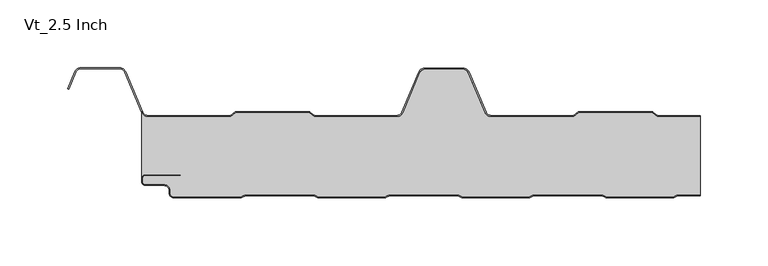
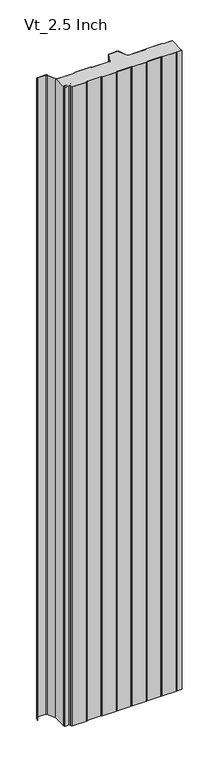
"""IFC4 building model written with IfcOpenShell, lengths in millimetres: plate geometry, AWIP_R18_CP_HR5_Vt_Roof Panel : Vt_2.5 Inch."""

from ifc_helpers import new_model, si_unit, point, frame_2d, origin, origin_with_axes, place, context, project, spatial, polyline, circle_curve, trimmed, segment, composite_curve, outline, extrude, source, transform, mapped, element, save


def vt_2_5_inch_2b169fff(model_context):
    return source(origin(), model_context, "Body", "SweptSolid", [
        extrude(outline(composite_curve([segment(trimmed(circle_curve(frame_2d((46.1009743, 90.6851335)), 4.2), [point((46.1009743, 94.8851335))], [point((49.967106, 92.3261778))], False, "CARTESIAN"), True, "CONTINUOUS"), segment(polyline([(49.967106, 92.3261778), (62.4828367, 62.8404017)]), True, "CONTINUOUS"), segment(trimmed(circle_curve(frame_2d((66.901273, 64.7158809)), 4.8000002), [point((62.4828367, 62.8404017))], [point((66.901273, 59.9158807))], True, "CARTESIAN"), True, "CONTINUOUS"), segment(polyline([(66.901273, 59.9158807), (127.7500279, 59.9158807)]), True, "CONTINUOUS"), segment(trimmed(circle_curve(frame_2d((127.7500279, 61.2158807)), 1.3), [point((127.7500279, 59.9158807))], [point((128.5114178, 60.1621798))], True, "CARTESIAN"), True, "CONTINUOUS"), segment(polyline([(128.5114178, 60.1621798), (132.0235518, 62.7), (186.226433, 62.7), (189.7385671, 60.1621799)]), True, "CONTINUOUS"), segment(trimmed(circle_curve(frame_2d((190.4999573, 61.2158814)), 1.3000007), [point((189.7385671, 60.1621799))], [point((190.4999573, 59.9158807))], True, "CARTESIAN"), True, "CONTINUOUS"), segment(polyline([(190.4999573, 59.9158807), (221.9999998, 59.9158807), (221.9999998, 2.3), (206.291051, 2.3)]), True, "CONTINUOUS"), segment(trimmed(circle_curve(frame_2d((206.291051, -1.0)), 3.3), [point((206.291051, 2.3))], [point((204.9822967, 2.0293831))], True, "CARTESIAN"), True, "CONTINUOUS"), segment(polyline([(204.9822967, 2.0293831), (202.5921975, 0.9968123)]), True, "CONTINUOUS"), segment(trimmed(circle_curve(frame_2d((201.6403761, 3.2)), 2.4), [point((202.5921975, 0.9968123))], [point((201.6403761, 0.8))], False, "CARTESIAN"), True, "CONTINUOUS"), segment(polyline([(201.6403761, 0.8), (152.725731, 0.8)]), True, "CONTINUOUS"), segment(trimmed(circle_curve(frame_2d((152.725731, 3.2)), 2.4), [point((152.725731, 0.8))], [point((151.7739097, 0.9968123))], False, "CARTESIAN"), True, "CONTINUOUS"), segment(polyline([(151.7739097, 0.9968123), (149.3838105, 2.0293831)]), True, "CONTINUOUS"), segment(trimmed(circle_curve(frame_2d((148.0750562, -1.0)), 3.3), [point((149.3838105, 2.0293831))], [point((148.0750562, 2.3))], True, "CARTESIAN"), True, "CONTINUOUS"), segment(polyline([(148.0750562, 2.3), (99.691051, 2.3)]), True, "CONTINUOUS"), segment(trimmed(circle_curve(frame_2d((99.691051, -1.0)), 3.3), [point((99.691051, 2.3))], [point((98.3822967, 2.0293831))], True, "CARTESIAN"), True, "CONTINUOUS"), segment(polyline([(98.3822967, 2.0293831), (95.9921975, 0.9968123)]), True, "CONTINUOUS"), segment(trimmed(circle_curve(frame_2d((95.0403761, 3.2)), 2.4), [point((95.9921975, 0.9968123))], [point((95.0403761, 0.8))], False, "CARTESIAN"), True, "CONTINUOUS"), segment(polyline([(95.0403761, 0.8), (46.125731, 0.8)]), True, "CONTINUOUS"), segment(trimmed(circle_curve(frame_2d((46.125731, 3.2)), 2.4), [point((46.125731, 0.8))], [point((45.1739097, 0.9968123))], False, "CARTESIAN"), True, "CONTINUOUS"), segment(polyline([(45.1739097, 0.9968123), (42.7838105, 2.0293831)]), True, "CONTINUOUS"), segment(trimmed(circle_curve(frame_2d((41.4750562, -1.0)), 3.3), [point((42.7838105, 2.0293831))], [point((41.4750562, 2.3))], True, "CARTESIAN"), True, "CONTINUOUS"), segment(polyline([(41.4750562, 2.3), (-6.908949, 2.3)]), True, "CONTINUOUS"), segment(trimmed(circle_curve(frame_2d((-6.908949, -1.0)), 3.3), [point((-6.908949, 2.3))], [point((-8.2177033, 2.0293831))], True, "CARTESIAN"), True, "CONTINUOUS"), segment(polyline([(-8.2177033, 2.0293831), (-10.6078025, 0.9968123)]), True, "CONTINUOUS"), segment(trimmed(circle_curve(frame_2d((-11.5596239, 3.2)), 2.4), [point((-10.6078025, 0.9968123))], [point((-11.5596239, 0.8))], False, "CARTESIAN"), True, "CONTINUOUS"), segment(polyline([(-11.5596239, 0.8), (-60.474269, 0.8)]), True, "CONTINUOUS"), segment(trimmed(circle_curve(frame_2d((-60.474269, 3.2)), 2.4), [point((-60.474269, 0.8))], [point((-61.4260903, 0.9968123))], False, "CARTESIAN"), True, "CONTINUOUS"), segment(polyline([(-61.4260903, 0.9968123), (-63.8161895, 2.0293831)]), True, "CONTINUOUS"), segment(trimmed(circle_curve(frame_2d((-65.1249438, -1.0)), 3.3), [point((-63.8161895, 2.0293831))], [point((-65.1249438, 2.3))], True, "CARTESIAN"), True, "CONTINUOUS"), segment(polyline([(-65.1249438, 2.3), (-113.508949, 2.3)]), True, "CONTINUOUS"), segment(trimmed(circle_curve(frame_2d((-113.508949, -1.0)), 3.3), [point((-113.508949, 2.3))], [point((-114.8177033, 2.0293831))], True, "CARTESIAN"), True, "CONTINUOUS"), segment(polyline([(-114.8177033, 2.0293831), (-117.2078025, 0.9968123)]), True, "CONTINUOUS"), segment(trimmed(circle_curve(frame_2d((-118.1596239, 3.2)), 2.4), [point((-117.2078025, 0.9968123))], [point((-118.1596239, 0.8))], False, "CARTESIAN"), True, "CONTINUOUS"), segment(polyline([(-118.1596239, 0.8), (-167.9169464, 0.8)]), True, "CONTINUOUS"), segment(trimmed(circle_curve(frame_2d((-167.9169464, 3.0)), 2.2), [point((-167.9169464, 0.8))], [point((-170.1169464, 3.0))], False, "CARTESIAN"), True, "CONTINUOUS"), segment(polyline([(-170.1169464, 3.0), (-170.1169464, 5.0)]), True, "CONTINUOUS"), segment(trimmed(circle_curve(frame_2d((-174.9169464, 5.0)), 4.8), [point((-170.1169464, 5.0))], [point((-174.9169464, 9.8))], True, "CARTESIAN"), True, "CONTINUOUS"), segment(polyline([(-174.9169464, 9.8), (-188.4327566, 9.8)]), True, "CONTINUOUS"), segment(trimmed(circle_curve(frame_2d((-188.4327566, 12.0)), 2.2), [point((-188.4327566, 9.8))], [point((-190.6327566, 12.0))], False, "CARTESIAN"), True, "CONTINUOUS"), segment(polyline([(-190.6327566, 12.0), (-190.6327566, 14.0)]), True, "CONTINUOUS"), segment(trimmed(circle_curve(frame_2d((-188.4327566, 14.0)), 2.2), [point((-190.6327566, 14.0))], [point((-188.4327566, 16.2))], False, "CARTESIAN"), True, "CONTINUOUS"), segment(polyline([(-188.4327566, 16.2), (-162.4917146, 16.2), (-162.4917146, 17.0), (-188.4327566, 17.0)]), True, "CONTINUOUS"), segment(trimmed(circle_curve(frame_2d((-188.4327566, 14.0)), 3.0), [point((-188.4327566, 17.0))], [point((-191.4327566, 14.0))], True, "CARTESIAN"), True, "CONTINUOUS"), segment(polyline([(-191.4327566, 14.0), (-191.4327566, 63.520955)]), True, "CONTINUOUS"), segment(trimmed(circle_curve(frame_2d((-186.7838692, 64.7158805)), 4.8), [point((-191.4327566, 63.520955))], [point((-186.7838692, 59.9158805))], True, "CARTESIAN"), True, "CONTINUOUS"), segment(polyline([(-186.7838692, 59.9158805), (-125.9999524, 59.9158805)]), True, "CONTINUOUS"), segment(trimmed(circle_curve(frame_2d((-125.9999524, 61.2158805)), 1.3), [point((-125.9999524, 59.9158805))], [point((-125.2385625, 60.1621796))], True, "CARTESIAN"), True, "CONTINUOUS"), segment(polyline([(-125.2385625, 60.1621796), (-121.7264279, 62.7), (-67.5235476, 62.7), (-64.0114131, 60.1621797)]), True, "CONTINUOUS"), segment(trimmed(circle_curve(frame_2d((-63.2500233, 61.2158805)), 1.3), [point((-64.0114131, 60.1621797))], [point((-63.2500233, 59.9158805))], True, "CARTESIAN"), True, "CONTINUOUS"), segment(polyline([(-63.2500233, 59.9158805), (-2.4012727, 59.9158805)]), True, "CONTINUOUS"), segment(trimmed(circle_curve(frame_2d((-2.4012727, 64.7158806)), 4.8000001), [point((-2.4012727, 59.9158805))], [point((2.0171635, 62.8404015))], True, "CARTESIAN"), True, "CONTINUOUS"), segment(polyline([(2.0171635, 62.8404015), (14.5328944, 92.3261778)]), True, "CONTINUOUS"), segment(trimmed(circle_curve(frame_2d((18.399026, 90.6851335)), 4.2), [point((14.5328944, 92.3261778))], [point((18.399026, 94.8851335))], False, "CARTESIAN"), True, "CONTINUOUS"), segment(polyline([(18.399026, 94.8851335), (46.1009743, 94.8851335)]), True, "CONTINUOUS")], self_intersect=False)), origin_with_axes(), (0.0, 0.0, 1.0), 2400.0),
        extrude(outline(composite_curve([segment(trimmed(circle_curve(frame_2d((206.3079976, -1.0)), 2.5), [point((206.3079976, 1.5))], [point((205.316517, 1.2949872))], True, "CARTESIAN"), True, "CONTINUOUS"), segment(polyline([(205.316517, 1.2949872), (202.9264178, 0.2624164)]), True, "CONTINUOUS"), segment(trimmed(circle_curve(frame_2d((201.6573227, 3.2)), 3.2), [point((202.9264178, 0.2624164))], [point((201.6573227, 0.0))], False, "CARTESIAN"), True, "CONTINUOUS"), segment(polyline([(201.6573227, 0.0), (152.7426776, 0.0)]), True, "CONTINUOUS"), segment(trimmed(circle_curve(frame_2d((152.7426776, 3.2)), 3.2), [point((152.7426776, 0.0))], [point((151.4735825, 0.2624164))], False, "CARTESIAN"), True, "CONTINUOUS"), segment(polyline([(151.4735825, 0.2624164), (149.0834833, 1.2949872)]), True, "CONTINUOUS"), segment(trimmed(circle_curve(frame_2d((148.0920027, -1.0)), 2.5), [point((149.0834833, 1.2949872))], [point((148.0920027, 1.5))], True, "CARTESIAN"), True, "CONTINUOUS"), segment(polyline([(148.0920027, 1.5), (99.7079976, 1.5)]), True, "CONTINUOUS"), segment(trimmed(circle_curve(frame_2d((99.7079976, -1.0)), 2.5), [point((99.7079976, 1.5))], [point((98.716517, 1.2949872))], True, "CARTESIAN"), True, "CONTINUOUS"), segment(polyline([(98.716517, 1.2949872), (96.3264178, 0.2624164)]), True, "CONTINUOUS"), segment(trimmed(circle_curve(frame_2d((95.0573227, 3.2)), 3.2), [point((96.3264178, 0.2624164))], [point((95.0573227, 0.0))], False, "CARTESIAN"), True, "CONTINUOUS"), segment(polyline([(95.0573227, 0.0), (46.1426776, 0.0)]), True, "CONTINUOUS"), segment(trimmed(circle_curve(frame_2d((46.1426776, 3.2)), 3.2), [point((46.1426776, 0.0))], [point((44.8735825, 0.2624164))], False, "CARTESIAN"), True, "CONTINUOUS"), segment(polyline([(44.8735825, 0.2624164), (42.4834833, 1.2949872)]), True, "CONTINUOUS"), segment(trimmed(circle_curve(frame_2d((41.4920027, -1.0)), 2.5), [point((42.4834833, 1.2949872))], [point((41.4920027, 1.5))], True, "CARTESIAN"), True, "CONTINUOUS"), segment(polyline([(41.4920027, 1.5), (-6.8920024, 1.5)]), True, "CONTINUOUS"), segment(trimmed(circle_curve(frame_2d((-6.8920024, -1.0)), 2.5), [point((-6.8920024, 1.5))], [point((-7.883483, 1.2949872))], True, "CARTESIAN"), True, "CONTINUOUS"), segment(polyline([(-7.883483, 1.2949872), (-10.2735822, 0.2624164)]), True, "CONTINUOUS"), segment(trimmed(circle_curve(frame_2d((-11.5426773, 3.2)), 3.2), [point((-10.2735822, 0.2624164))], [point((-11.5426773, 0.0))], False, "CARTESIAN"), True, "CONTINUOUS"), segment(polyline([(-11.5426773, 0.0), (-60.4573224, 0.0)]), True, "CONTINUOUS"), segment(trimmed(circle_curve(frame_2d((-60.4573224, 3.2)), 3.2), [point((-60.4573224, 0.0))], [point((-61.7264175, 0.2624164))], False, "CARTESIAN"), True, "CONTINUOUS"), segment(polyline([(-61.7264175, 0.2624164), (-64.1165167, 1.2949872)]), True, "CONTINUOUS"), segment(trimmed(circle_curve(frame_2d((-65.1079973, -1.0)), 2.5), [point((-64.1165167, 1.2949872))], [point((-65.1079973, 1.5))], True, "CARTESIAN"), True, "CONTINUOUS"), segment(polyline([(-65.1079973, 1.5), (-113.4920024, 1.5)]), True, "CONTINUOUS"), segment(trimmed(circle_curve(frame_2d((-113.4920024, -1.0)), 2.5), [point((-113.4920024, 1.5))], [point((-114.483483, 1.2949872))], True, "CARTESIAN"), True, "CONTINUOUS"), segment(polyline([(-114.483483, 1.2949872), (-116.8735822, 0.2624164)]), True, "CONTINUOUS"), segment(trimmed(circle_curve(frame_2d((-118.1426773, 3.2)), 3.2), [point((-116.8735822, 0.2624164))], [point((-118.1426773, 0.0))], False, "CARTESIAN"), True, "CONTINUOUS"), segment(polyline([(-118.1426773, 0.0), (-167.8999998, 0.0)]), True, "CONTINUOUS"), segment(trimmed(circle_curve(frame_2d((-167.8999998, 3.0)), 3.0), [point((-167.8999998, 0.0))], [point((-170.8999998, 3.0))], False, "CARTESIAN"), True, "CONTINUOUS"), segment(polyline([(-170.8999998, 3.0), (-170.8999998, 5.0)]), True, "CONTINUOUS"), segment(trimmed(circle_curve(frame_2d((-174.8999998, 5.0)), 4.0), [point((-170.8999998, 5.0))], [point((-174.8999998, 9.0))], True, "CARTESIAN"), True, "CONTINUOUS"), segment(polyline([(-174.8999998, 9.0), (-188.41581, 9.0)]), True, "CONTINUOUS"), segment(trimmed(circle_curve(frame_2d((-188.41581, 12.0)), 3.0), [point((-188.41581, 9.0))], [point((-191.41581, 12.0))], False, "CARTESIAN"), True, "CONTINUOUS"), segment(polyline([(-191.41581, 12.0), (-191.41581, 14.0)]), True, "CONTINUOUS"), segment(trimmed(circle_curve(frame_2d((-188.41581, 14.0)), 3.0), [point((-191.41581, 14.0))], [point((-188.41581, 17.0))], False, "CARTESIAN"), True, "CONTINUOUS"), segment(polyline([(-188.41581, 17.0), (-162.474768, 17.0), (-162.474768, 16.2), (-188.41581, 16.2)]), True, "CONTINUOUS"), segment(trimmed(circle_curve(frame_2d((-188.41581, 14.0)), 2.2), [point((-188.41581, 16.2))], [point((-190.61581, 14.0))], True, "CARTESIAN"), True, "CONTINUOUS"), segment(polyline([(-190.61581, 14.0), (-190.61581, 12.0)]), True, "CONTINUOUS"), segment(trimmed(circle_curve(frame_2d((-188.41581, 12.0)), 2.2), [point((-190.61581, 12.0))], [point((-188.41581, 9.8))], True, "CARTESIAN"), True, "CONTINUOUS"), segment(polyline([(-188.41581, 9.8), (-174.8999998, 9.8)]), True, "CONTINUOUS"), segment(trimmed(circle_curve(frame_2d((-174.8999998, 5.0)), 4.8), [point((-174.8999998, 9.8))], [point((-170.0999998, 5.0))], False, "CARTESIAN"), True, "CONTINUOUS"), segment(polyline([(-170.0999998, 5.0), (-170.0999998, 3.0)]), True, "CONTINUOUS"), segment(trimmed(circle_curve(frame_2d((-167.8999998, 3.0)), 2.2), [point((-170.0999998, 3.0))], [point((-167.8999998, 0.8))], True, "CARTESIAN"), True, "CONTINUOUS"), segment(polyline([(-167.8999998, 0.8), (-118.1426773, 0.8)]), True, "CONTINUOUS"), segment(trimmed(circle_curve(frame_2d((-118.1426773, 3.2)), 2.4), [point((-118.1426773, 0.8))], [point((-117.190856, 0.9968123))], True, "CARTESIAN"), True, "CONTINUOUS"), segment(polyline([(-117.190856, 0.9968123), (-114.8007568, 2.0293831)]), True, "CONTINUOUS"), segment(trimmed(circle_curve(frame_2d((-113.4920024, -1.0)), 3.3), [point((-114.8007568, 2.0293831))], [point((-113.4920024, 2.3))], False, "CARTESIAN"), True, "CONTINUOUS"), segment(polyline([(-113.4920024, 2.3), (-65.1079973, 2.3)]), True, "CONTINUOUS"), segment(trimmed(circle_curve(frame_2d((-65.1079973, -1.0)), 3.3), [point((-65.1079973, 2.3))], [point((-63.7992429, 2.0293831))], False, "CARTESIAN"), True, "CONTINUOUS"), segment(polyline([(-63.7992429, 2.0293831), (-61.4091437, 0.9968123)]), True, "CONTINUOUS"), segment(trimmed(circle_curve(frame_2d((-60.4573224, 3.2)), 2.4), [point((-61.4091437, 0.9968123))], [point((-60.4573224, 0.8))], True, "CARTESIAN"), True, "CONTINUOUS"), segment(polyline([(-60.4573224, 0.8), (-11.5426773, 0.8)]), True, "CONTINUOUS"), segment(trimmed(circle_curve(frame_2d((-11.5426773, 3.2)), 2.4), [point((-11.5426773, 0.8))], [point((-10.590856, 0.9968123))], True, "CARTESIAN"), True, "CONTINUOUS"), segment(polyline([(-10.590856, 0.9968123), (-8.2007568, 2.0293831)]), True, "CONTINUOUS"), segment(trimmed(circle_curve(frame_2d((-6.8920024, -1.0)), 3.3), [point((-8.2007568, 2.0293831))], [point((-6.8920024, 2.3))], False, "CARTESIAN"), True, "CONTINUOUS"), segment(polyline([(-6.8920024, 2.3), (41.4920027, 2.3)]), True, "CONTINUOUS"), segment(trimmed(circle_curve(frame_2d((41.4920027, -1.0)), 3.3), [point((41.4920027, 2.3))], [point((42.8007571, 2.0293831))], False, "CARTESIAN"), True, "CONTINUOUS"), segment(polyline([(42.8007571, 2.0293831), (45.1908563, 0.9968123)]), True, "CONTINUOUS"), segment(trimmed(circle_curve(frame_2d((46.1426776, 3.2)), 2.4), [point((45.1908563, 0.9968123))], [point((46.1426776, 0.8))], True, "CARTESIAN"), True, "CONTINUOUS"), segment(polyline([(46.1426776, 0.8), (95.0573227, 0.8)]), True, "CONTINUOUS"), segment(trimmed(circle_curve(frame_2d((95.0573227, 3.2)), 2.4), [point((95.0573227, 0.8))], [point((96.009144, 0.9968123))], True, "CARTESIAN"), True, "CONTINUOUS"), segment(polyline([(96.009144, 0.9968123), (98.3992432, 2.0293831)]), True, "CONTINUOUS"), segment(trimmed(circle_curve(frame_2d((99.7079976, -1.0)), 3.3), [point((98.3992432, 2.0293831))], [point((99.7079976, 2.3))], False, "CARTESIAN"), True, "CONTINUOUS"), segment(polyline([(99.7079976, 2.3), (148.0920027, 2.3)]), True, "CONTINUOUS"), segment(trimmed(circle_curve(frame_2d((148.0920027, -1.0)), 3.3), [point((148.0920027, 2.3))], [point((149.4007571, 2.0293831))], False, "CARTESIAN"), True, "CONTINUOUS"), segment(polyline([(149.4007571, 2.0293831), (151.7908563, 0.9968123)]), True, "CONTINUOUS"), segment(trimmed(circle_curve(frame_2d((152.7426776, 3.2)), 2.4), [point((151.7908563, 0.9968123))], [point((152.7426776, 0.8))], True, "CARTESIAN"), True, "CONTINUOUS"), segment(polyline([(152.7426776, 0.8), (201.6573227, 0.8)]), True, "CONTINUOUS"), segment(trimmed(circle_curve(frame_2d((201.6573227, 3.2)), 2.4), [point((201.6573227, 0.8))], [point((202.609144, 0.9968123))], True, "CARTESIAN"), True, "CONTINUOUS"), segment(polyline([(202.609144, 0.9968123), (204.9992432, 2.0293831)]), True, "CONTINUOUS"), segment(trimmed(circle_curve(frame_2d((206.3079976, -1.0)), 3.3), [point((204.9992432, 2.0293831))], [point((206.3079976, 2.3))], False, "CARTESIAN"), True, "CONTINUOUS"), segment(polyline([(206.3079976, 2.3), (221.9999998, 2.3), (221.9999998, 1.5), (206.3079976, 1.5)]), True, "CONTINUOUS")], self_intersect=False)), origin_with_axes(), (0.0, 0.0, 1.0), 2400.0),
        extrude(outline(composite_curve([segment(trimmed(circle_curve(frame_2d((190.4999573, 61.2158813)), 1.3000007), [point((190.4999573, 59.9158806))], [point((189.7385671, 60.1621799))], False, "CARTESIAN"), True, "CONTINUOUS"), segment(polyline([(189.7385671, 60.1621799), (186.226433, 62.6999999), (132.0235518, 62.6999999), (128.5114178, 60.1621798)]), True, "CONTINUOUS"), segment(trimmed(circle_curve(frame_2d((127.7500279, 61.2158806)), 1.3), [point((128.5114178, 60.1621798))], [point((127.7500279, 59.9158806))], False, "CARTESIAN"), True, "CONTINUOUS"), segment(polyline([(127.7500279, 59.9158806), (67.2538974, 59.9158806)]), True, "CONTINUOUS"), segment(trimmed(circle_curve(frame_2d((67.2538974, 64.7158808)), 4.8000002), [point((67.2538974, 59.9158806))], [point((62.835461, 62.8404017))], False, "CARTESIAN"), True, "CONTINUOUS"), segment(polyline([(62.835461, 62.8404017), (50.3066793, 92.3569246)]), True, "CONTINUOUS"), segment(trimmed(circle_curve(frame_2d((46.4405477, 90.7158803)), 4.2), [point((50.3066793, 92.3569246))], [point((46.4405477, 94.9158803))], True, "CARTESIAN"), True, "CONTINUOUS"), segment(polyline([(46.4405477, 94.9158803), (18.0594526, 94.9158803)]), True, "CONTINUOUS"), segment(trimmed(circle_curve(frame_2d((18.0594526, 90.7158803)), 4.2), [point((18.0594526, 94.9158803))], [point((14.193321, 92.3569246))], True, "CARTESIAN"), True, "CONTINUOUS"), segment(polyline([(14.193321, 92.3569246), (1.6645392, 62.8404014)]), True, "CONTINUOUS"), segment(trimmed(circle_curve(frame_2d((-2.7538971, 64.7158806)), 4.8000001), [point((1.6645392, 62.8404014))], [point((-2.7538971, 59.9158805))], False, "CARTESIAN"), True, "CONTINUOUS"), segment(polyline([(-2.7538971, 59.9158805), (-63.2500233, 59.9158805)]), True, "CONTINUOUS"), segment(trimmed(circle_curve(frame_2d((-63.2500233, 61.2158805)), 1.3), [point((-63.2500233, 59.9158805))], [point((-64.0114131, 60.1621796))], False, "CARTESIAN"), True, "CONTINUOUS"), segment(polyline([(-64.0114131, 60.1621796), (-67.5235476, 62.6999999), (-121.7264279, 62.6999999), (-125.2385625, 60.1621795)]), True, "CONTINUOUS"), segment(trimmed(circle_curve(frame_2d((-125.9999524, 61.2158804)), 1.3), [point((-125.2385625, 60.1621795))], [point((-125.9999524, 59.9158804))], False, "CARTESIAN"), True, "CONTINUOUS"), segment(polyline([(-125.9999524, 59.9158804), (-186.7838692, 59.9158804)]), True, "CONTINUOUS"), segment(trimmed(circle_curve(frame_2d((-186.7838692, 64.7158804)), 4.8), [point((-186.7838692, 59.9158804))], [point((-191.2023054, 62.8404013))], False, "CARTESIAN"), True, "CONTINUOUS"), segment(polyline([(-191.2023054, 62.8404013), (-203.9433207, 92.8569246)]), True, "CONTINUOUS"), segment(trimmed(circle_curve(frame_2d((-207.8094523, 91.2158804)), 4.2), [point((-203.9433207, 92.8569246))], [point((-207.8094523, 95.4158804))], True, "CARTESIAN"), True, "CONTINUOUS"), segment(polyline([(-207.8094523, 95.4158804), (-236.1905444, 95.4158804)]), True, "CONTINUOUS"), segment(trimmed(circle_curve(frame_2d((-236.1905444, 91.2158804)), 4.2), [point((-236.1905444, 95.4158804))], [point((-240.0566774, 92.8569214))], True, "CARTESIAN"), True, "CONTINUOUS"), segment(polyline([(-240.0566774, 92.8569214), (-245.4052666, 80.2561658), (-246.1423082, 80.5672483), (-240.7930837, 93.1695007)]), True, "CONTINUOUS"), segment(trimmed(circle_curve(frame_2d((-236.1905444, 91.2158804)), 5.0), [point((-240.7930837, 93.1695007))], [point((-236.1905444, 96.2158804))], False, "CARTESIAN"), True, "CONTINUOUS"), segment(polyline([(-236.1905444, 96.2158804), (-207.8094523, 96.2158804)]), True, "CONTINUOUS"), segment(trimmed(circle_curve(frame_2d((-207.8094523, 91.2158804)), 5.0), [point((-207.8094523, 96.2158804))], [point((-203.2069146, 93.1695045))], False, "CARTESIAN"), True, "CONTINUOUS"), segment(polyline([(-203.2069146, 93.1695045), (-190.4658994, 63.1529811)]), True, "CONTINUOUS"), segment(trimmed(circle_curve(frame_2d((-186.7838692, 64.7158804)), 4.0), [point((-190.4658994, 63.1529811))], [point((-186.7838692, 60.7158804))], True, "CARTESIAN"), True, "CONTINUOUS"), segment(polyline([(-186.7838692, 60.7158804), (-125.838209, 60.7158804), (-122.3785147, 63.2158083)]), True, "CONTINUOUS"), segment(trimmed(circle_curve(frame_2d((-121.499988, 61.9999996)), 1.5), [point((-122.3785147, 63.2158083))], [point((-121.499988, 63.4999996))], False, "CARTESIAN"), True, "CONTINUOUS"), segment(polyline([(-121.499988, 63.4999996), (-67.7509594, 63.4999996)]), True, "CONTINUOUS"), segment(trimmed(circle_curve(frame_2d((-67.749988, 61.9999999)), 1.5), [point((-67.7509594, 63.4999996))], [point((-66.8714613, 63.2158086))], False, "CARTESIAN"), True, "CONTINUOUS"), segment(polyline([(-66.8714613, 63.2158086), (-63.4117664, 60.7158805), (-2.7538971, 60.7158805)]), True, "CONTINUOUS"), segment(trimmed(circle_curve(frame_2d((-2.7538971, 64.7158806)), 4.0000001), [point((-2.7538971, 60.7158805))], [point((0.9281331, 63.1529813))], True, "CARTESIAN"), True, "CONTINUOUS"), segment(polyline([(0.9281331, 63.1529813), (13.456915, 92.6695044)]), True, "CONTINUOUS"), segment(trimmed(circle_curve(frame_2d((18.0594526, 90.7158803)), 5.0), [point((13.456915, 92.6695044))], [point((18.0594526, 95.7158803))], False, "CARTESIAN"), True, "CONTINUOUS"), segment(polyline([(18.0594526, 95.7158803), (46.4405477, 95.7158803)]), True, "CONTINUOUS"), segment(trimmed(circle_curve(frame_2d((46.4405477, 90.7158803)), 5.0), [point((46.4405477, 95.7158803))], [point((51.0430854, 92.6695044))], False, "CARTESIAN"), True, "CONTINUOUS"), segment(polyline([(51.0430854, 92.6695044), (63.5718668, 63.1529814)]), True, "CONTINUOUS"), segment(trimmed(circle_curve(frame_2d((67.2538974, 64.7158808)), 4.0000005), [point((63.5718668, 63.1529814))], [point((67.2538974, 60.7158803))], True, "CARTESIAN"), True, "CONTINUOUS"), segment(polyline([(67.2538974, 60.7158803), (127.9117708, 60.7158803), (131.3714658, 63.2158088)]), True, "CONTINUOUS"), segment(trimmed(circle_curve(frame_2d((132.2499926, 62.0000001)), 1.5000001), [point((131.3714658, 63.2158088))], [point((132.2499926, 63.5000002))], False, "CARTESIAN"), True, "CONTINUOUS"), segment(polyline([(132.2499926, 63.5000002), (185.9999926, 63.5000002)]), True, "CONTINUOUS"), segment(trimmed(circle_curve(frame_2d((185.9999926, 61.9999999)), 1.5), [point((185.9999926, 63.5000002))], [point((186.8785193, 63.2158087))], False, "CARTESIAN"), True, "CONTINUOUS"), segment(polyline([(186.8785193, 63.2158087), (190.3382142, 60.7158806), (221.9999998, 60.7158806), (221.9999998, 59.9158806), (190.4999573, 59.9158806)]), True, "CONTINUOUS")], self_intersect=False)), origin_with_axes(), (0.0, 0.0, 1.0), 2400.0),
    ])


if __name__ == "__main__":
    model = new_model("IFC4")
    model_context = context("Model", 3, world=origin())
    ifc_project = project(units=[si_unit("LENGTHUNIT", "METRE", prefix="MILLI")], contexts=[model_context])
    site = spatial("IfcSite", under=ifc_project)
    building = spatial("IfcBuilding", under=site)
    placement = place(None, origin())
    vt_2_5_inch_shape = vt_2_5_inch_2b169fff(model_context)
    element("IfcPlate", 1, ObjectType="AWIP_R18_CP_HR5_Vt_Roof Panel : Vt_2.5 Inch", at=placement, inside=building, context=model_context, shape_type="MappedRepresentation", body=[
        mapped(vt_2_5_inch_shape, transform((0.0, 0.0, 0.0), x_axis=(1.0, 0.0, 0.0), y_axis=(0.0, 1.0, 0.0), z_axis=(0.0, 0.0, 1.0))),
    ])
    save(model, "model.ifc")
